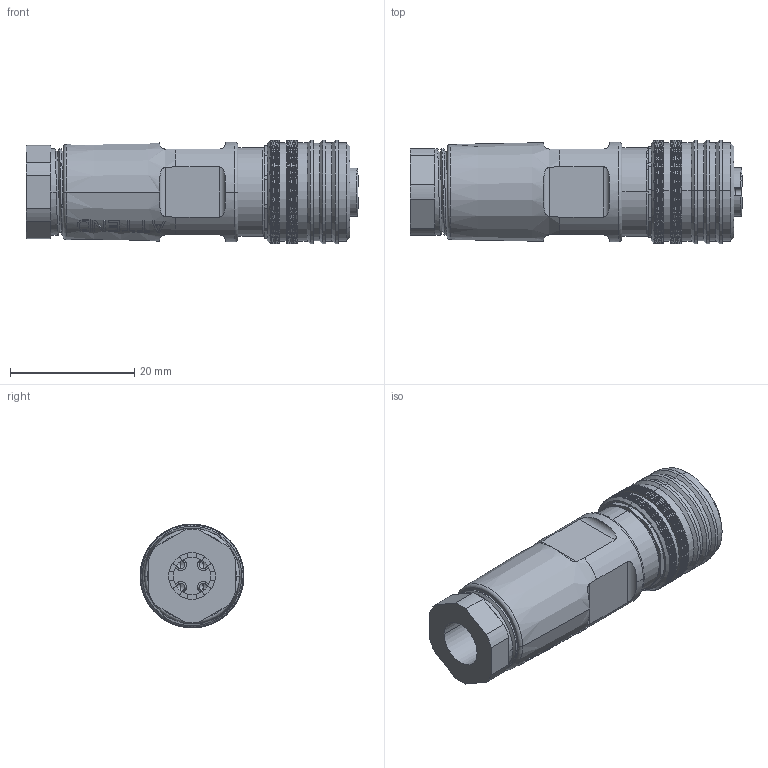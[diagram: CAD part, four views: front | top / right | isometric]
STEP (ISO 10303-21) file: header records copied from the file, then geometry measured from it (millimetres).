
FILE_DESCRIPTION((''),'2;1');
FILE_NAME('3D_DRAWING_ASM_ASM','2025-12-24T',('fros.liao'),(''),'CREO PARAMETRIC BY PTC INC, 2018360','CREO PARAMETRIC BY PTC INC, 2018360','');
FILE_SCHEMA(('AUTOMOTIVE_DESIGN { 1 0 10303 214 1 1 1 1 }'));
Products named in the file (20): SHIELD_NUT_17_1_1_1; PLASTIC_STRAPS_14_1_1_1; RUBBER_STRAPS_14_1_1_1; BACK_PLUG_15_1_1_1; BODY_11_1_1_1; ORING_PUSHPULL_6_1_1_1; THREAD_SLEEVE_ASM_23_ASM_1_ASM__ASM; MSBR-11_1_1; MSBR-10_1_1; MSBR-9_1_1; MSBR-8_1_1; MSBR-5_1_1; MSBR-4_1_1; MSBR-3_1_1; MSBR-2_1_1; MSBR-1_1_1; 216A-04F01_ASM_1_ASM_1_ASM; 216A-04F01_C_1_ASM_1_ASM; 3D_DRAWING_ASM_3_ASM; 3D_DRAWING_ASM_ASM
Assembly tree (19 placements, depth 5):
  3D_DRAWING_ASM_ASM
    3D_DRAWING_ASM_3_ASM
      THREAD_SLEEVE_ASM_23_ASM_1_ASM__ASM
        SHIELD_NUT_17_1_1_1
        PLASTIC_STRAPS_14_1_1_1
        RUBBER_STRAPS_14_1_1_1
        BACK_PLUG_15_1_1_1
        BODY_11_1_1_1
        ORING_PUSHPULL_6_1_1_1
      216A-04F01_C_1_ASM_1_ASM
        216A-04F01_ASM_1_ASM_1_ASM
          MSBR-11_1_1
          MSBR-10_1_1
          MSBR-9_1_1
          MSBR-8_1_1
          MSBR-5_1_1
          MSBR-4_1_1
          MSBR-3_1_1
          MSBR-2_1_1
          MSBR-1_1_1
Bounding box: 53.5 x 16.7 x 16.7 mm (x, y, z)
Volume: 7196 mm3; surface area: 11907.3 mm2
Topology: 15 solids, 15 shells, 2800 faces, 6701 edges, 3961 vertices
Faces by surface type: bspline 1554, cylinder 725, plane 371, cone 128, torus 22
Entity records: 147746 total; most frequent: CARTESIAN_POINT 71602, ORIENTED_EDGE 13370, PRESENTATION_STYLE_ASSIGNMENT 6929, DIRECTION 6914, STYLED_ITEM 6700, CURVE_STYLE 6685, EDGE_CURVE 6685, VERTEX_POINT 3961
